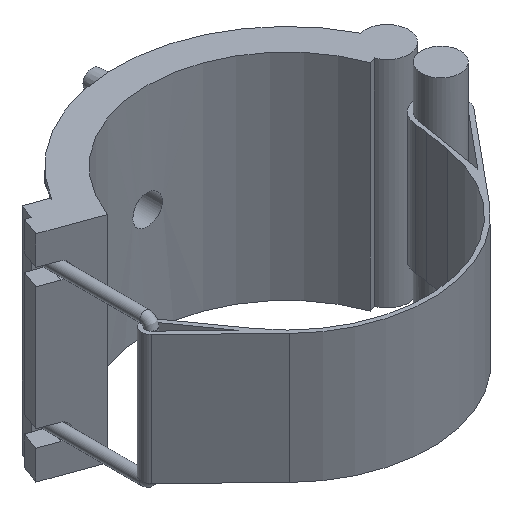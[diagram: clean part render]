
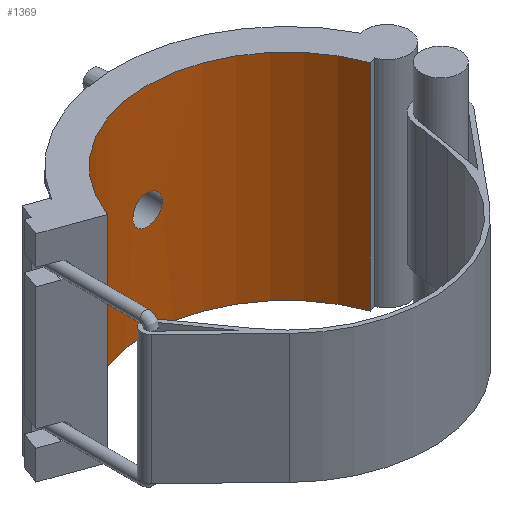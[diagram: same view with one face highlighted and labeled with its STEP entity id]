
A CAD part, isometric view. The second image highlights one B-rep face of the part: STEP entity #1369.
In plain terms, the highlighted cylindrical face has radius 114.45 mm (diameter 228.9 mm), a partial arc.
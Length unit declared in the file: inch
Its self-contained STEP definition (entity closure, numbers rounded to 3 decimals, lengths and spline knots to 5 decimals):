
#27=B_SPLINE_CURVE_WITH_KNOTS('',3,(#2424,#2425,#2426,#2427,#2428,#2429,
#2430,#2431,#2432,#2433,#2434,#2435,#2436,#2437,#2438,#2439,#2440,#2441,
#2442,#2443,#2444,#2445,#2446,#2447,#2448,#2449,#2450,#2451,#2452,#2453,
#2454,#2455,#2456,#2457),.UNSPECIFIED.,.T.,.F.,(4,2,2,2,2,2,2,2,2,2,2,2,
2,2,2,2,4),(0.,0.45678,0.91355,1.37033,1.8271,
2.28388,2.74066,3.19743,3.65421,4.11099,
4.56776,5.02454,5.48131,5.93809,6.39486,
6.85164,7.30842),.UNSPECIFIED.);
#52=CYLINDRICAL_SURFACE('',#1517,4.50591);
#75=FACE_BOUND('',#295,.T.);
#119=CIRCLE('',#1483,4.50591);
#130=CIRCLE('',#1515,4.50591);
#205=FACE_OUTER_BOUND('',#294,.T.);
#294=EDGE_LOOP('',(#1181,#1182,#1183,#1184));
#295=EDGE_LOOP('',(#1185));
#374=LINE('',#2141,#488);
#426=LINE('',#2421,#540);
#488=VECTOR('',#1714,0.3937);
#540=VECTOR('',#1868,0.3937);
#619=VERTEX_POINT('',#2138);
#620=VERTEX_POINT('',#2140);
#641=VERTEX_POINT('',#2210);
#657=VERTEX_POINT('',#2417);
#658=VERTEX_POINT('',#2423);
#764=EDGE_CURVE('',#620,#619,#374,.T.);
#800=EDGE_CURVE('',#620,#641,#119,.T.);
#837=EDGE_CURVE('',#657,#619,#130,.T.);
#838=EDGE_CURVE('',#657,#641,#426,.T.);
#839=EDGE_CURVE('',#658,#658,#27,.T.);
#1181=ORIENTED_EDGE('',*,*,#838,.T.);
#1182=ORIENTED_EDGE('',*,*,#800,.F.);
#1183=ORIENTED_EDGE('',*,*,#764,.T.);
#1184=ORIENTED_EDGE('',*,*,#837,.F.);
#1185=ORIENTED_EDGE('',*,*,#839,.T.);
#1369=ADVANCED_FACE('',(#205,#75),#52,.F.);
#1483=AXIS2_PLACEMENT_3D('',#2211,#1780,#1781);
#1515=AXIS2_PLACEMENT_3D('',#2419,#1864,#1865);
#1517=AXIS2_PLACEMENT_3D('',#2422,#1869,#1870);
#1714=DIRECTION('',(0.,0.,-1.));
#1780=DIRECTION('center_axis',(0.,0.,-1.));
#1781=DIRECTION('ref_axis',(-1.,0.,0.));
#1864=DIRECTION('center_axis',(0.,0.,1.));
#1865=DIRECTION('ref_axis',(-1.,0.,0.));
#1868=DIRECTION('',(0.,0.,1.));
#1869=DIRECTION('center_axis',(0.,0.,1.));
#1870=DIRECTION('ref_axis',(-1.,0.,0.));
#2138=CARTESIAN_POINT('',(-4.23417,1.54111,-3.465));
#2140=CARTESIAN_POINT('',(-4.23417,1.54111,3.465));
#2141=CARTESIAN_POINT('',(-4.23417,1.54111,0.));
#2210=CARTESIAN_POINT('',(4.23417,1.54111,3.465));
#2211=CARTESIAN_POINT('Origin',(0.,0.,3.465));
#2417=CARTESIAN_POINT('',(4.23417,1.54111,-3.465));
#2419=CARTESIAN_POINT('Origin',(0.,0.,-3.465));
#2421=CARTESIAN_POINT('',(4.23417,1.54111,0.));
#2422=CARTESIAN_POINT('Origin',(0.,0.,0.));
#2423=CARTESIAN_POINT('',(0.47702,4.48058,0.));
#2424=CARTESIAN_POINT('Ctrl Pts',(0.47702,4.48058,0.));
#2425=CARTESIAN_POINT('Ctrl Pts',(0.47702,4.48058,-0.05994));
#2426=CARTESIAN_POINT('Ctrl Pts',(0.46503,4.48191,-0.12385));
#2427=CARTESIAN_POINT('Ctrl Pts',(0.41634,4.4867,-0.24137));
#2428=CARTESIAN_POINT('Ctrl Pts',(0.37963,4.49009,-0.29498));
#2429=CARTESIAN_POINT('Ctrl Pts',(0.29498,4.49644,-0.37963));
#2430=CARTESIAN_POINT('Ctrl Pts',(0.24137,4.49982,-0.41634));
#2431=CARTESIAN_POINT('Ctrl Pts',(0.12385,4.50459,-0.46503));
#2432=CARTESIAN_POINT('Ctrl Pts',(0.05994,4.50591,-0.47702));
#2433=CARTESIAN_POINT('Ctrl Pts',(-0.05994,4.50591,
-0.47702));
#2434=CARTESIAN_POINT('Ctrl Pts',(-0.12385,4.50459,-0.46503));
#2435=CARTESIAN_POINT('Ctrl Pts',(-0.24137,4.49982,-0.41634));
#2436=CARTESIAN_POINT('Ctrl Pts',(-0.29498,4.49644,-0.37963));
#2437=CARTESIAN_POINT('Ctrl Pts',(-0.37963,4.49009,-0.29498));
#2438=CARTESIAN_POINT('Ctrl Pts',(-0.41634,4.4867,-0.24137));
#2439=CARTESIAN_POINT('Ctrl Pts',(-0.46503,4.48191,-0.12385));
#2440=CARTESIAN_POINT('Ctrl Pts',(-0.47702,4.48058,-0.05994));
#2441=CARTESIAN_POINT('Ctrl Pts',(-0.47702,4.48058,0.05994));
#2442=CARTESIAN_POINT('Ctrl Pts',(-0.46503,4.48191,0.12385));
#2443=CARTESIAN_POINT('Ctrl Pts',(-0.41634,4.4867,0.24137));
#2444=CARTESIAN_POINT('Ctrl Pts',(-0.37963,4.49009,0.29498));
#2445=CARTESIAN_POINT('Ctrl Pts',(-0.29498,4.49644,0.37963));
#2446=CARTESIAN_POINT('Ctrl Pts',(-0.24137,4.49982,0.41634));
#2447=CARTESIAN_POINT('Ctrl Pts',(-0.12385,4.50459,0.46503));
#2448=CARTESIAN_POINT('Ctrl Pts',(-0.05994,4.50591,
0.47702));
#2449=CARTESIAN_POINT('Ctrl Pts',(0.05994,4.50591,0.47702));
#2450=CARTESIAN_POINT('Ctrl Pts',(0.12385,4.50459,0.46503));
#2451=CARTESIAN_POINT('Ctrl Pts',(0.24137,4.49982,0.41634));
#2452=CARTESIAN_POINT('Ctrl Pts',(0.29498,4.49644,0.37963));
#2453=CARTESIAN_POINT('Ctrl Pts',(0.37963,4.49009,0.29498));
#2454=CARTESIAN_POINT('Ctrl Pts',(0.41634,4.4867,0.24137));
#2455=CARTESIAN_POINT('Ctrl Pts',(0.46503,4.48191,0.12385));
#2456=CARTESIAN_POINT('Ctrl Pts',(0.47702,4.48058,0.05994));
#2457=CARTESIAN_POINT('Ctrl Pts',(0.47702,4.48058,0.));
